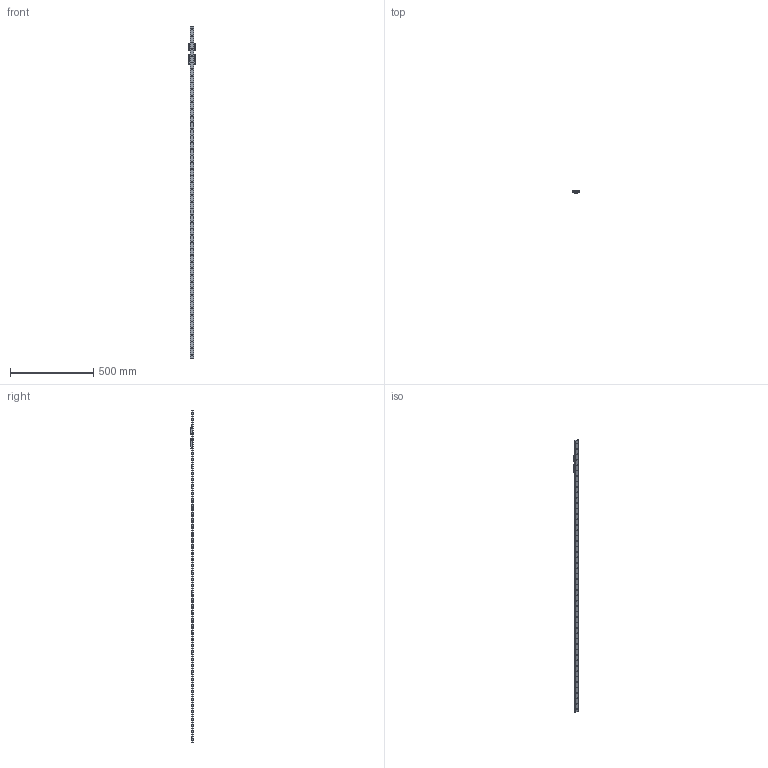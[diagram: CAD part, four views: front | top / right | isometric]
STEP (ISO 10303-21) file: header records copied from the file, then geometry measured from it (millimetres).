
FILE_DESCRIPTION((''),'2;1');
FILE_NAME('BMWS12-XX2-2000-CAT_ASM','2022-09-29T13:04:14',('SEDY4338'),('Ewellix'),'CREO PARAMETRIC BY PTC INC, 2020281','CREO PARAMETRIC BY PTC INC, 2020281','');
FILE_SCHEMA(('CONFIG_CONTROL_DESIGN'));
Length unit declared in the file: millimetre
Products named in the file (11): LLSWR12-2000-CAT_AF0; LLSWC12_TA_PROCESS_DRAWING_AF0; LLSWC12_LA_PROCESS_DRAWING_AF0; KH-LLSW12-L-00; KH-LLSW12-M-00; CJ-LLSW12-AN-00; SV-LLSW12-AN-00-1ST; SV-LLSW12-AN-00-2ND; SV-LLSW12-AN-00_ASM; VS-CP-M2-05-H0-01; BMWS12-XX2-2000-CAT_ASM
Assembly tree (25 placements, depth 3):
  BMWS12-XX2-2000-CAT_ASM
    LLSWR12-2000-CAT_AF0
    LLSWC12_TA_PROCESS_DRAWING_AF0
    LLSWC12_LA_PROCESS_DRAWING_AF0
    KH-LLSW12-L-00  x2
    KH-LLSW12-M-00  x2
    CJ-LLSW12-AN-00  x4
    SV-LLSW12-AN-00_ASM  x4
      SV-LLSW12-AN-00-1ST
      SV-LLSW12-AN-00-2ND
    VS-CP-M2-05-H0-01  x8
Bounding box: 40 x 14 x 2000 mm (x, y, z)
Volume: 413784.1 mm3; surface area: 162250.4 mm2
Topology: 27 solids, 27 shells, 3148 faces, 8189 edges, 5227 vertices
Faces by surface type: cylinder 1250, plane 1118, bspline 364, cone 324, torus 68, sphere 24
Entity records: 41563 total; most frequent: CARTESIAN_POINT 9964, DIRECTION 6766, ORIENTED_EDGE 6348, EDGE_CURVE 3174, AXIS2_PLACEMENT_3D 2510, VERTEX_POINT 2010, VECTOR 1746, LINE 1746
